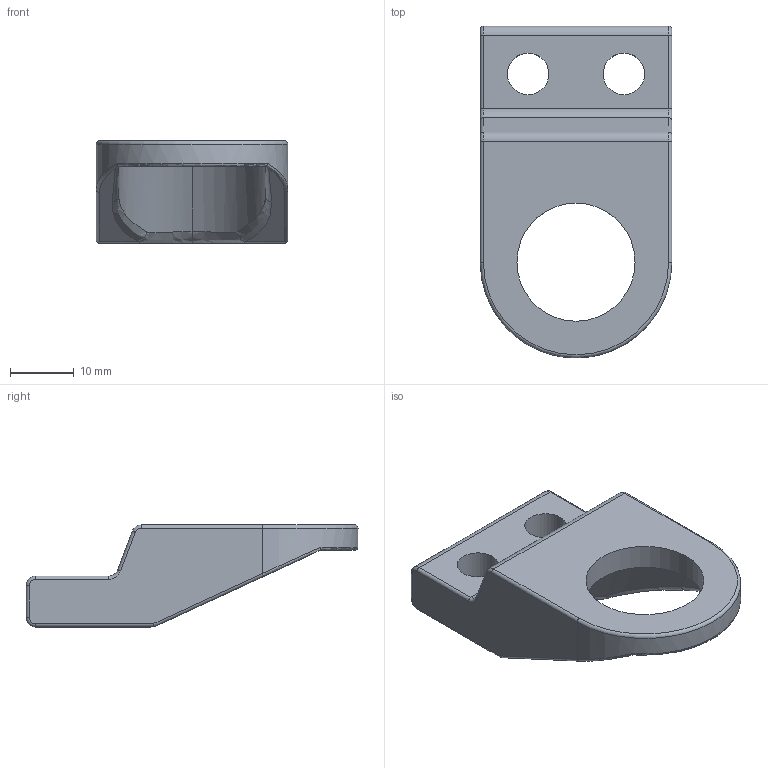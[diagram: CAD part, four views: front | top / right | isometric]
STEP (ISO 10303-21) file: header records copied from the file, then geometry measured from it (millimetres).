
FILE_DESCRIPTION (( 'STEP AP214' ), '1' );
FILE_NAME ('L19168.step', '2024-12-03T16:23:10', ( '' ), ( '' ), 'SwSTEP 2.0', 'SolidWorks 2023', '' );
FILE_SCHEMA (( 'AUTOMOTIVE_DESIGN' ));
Length unit declared in the file: millimetre
Products named in the file (1): L19168
Bounding box: 30 x 52 x 16 mm (x, y, z)
Volume: 9567.9 mm3; surface area: 4493 mm2
Topology: 1 solids, 1 shells, 54 faces, 133 edges, 81 vertices
Faces by surface type: cylinder 24, plane 12, torus 10, bspline 8
Full cylindrical faces by diameter (mm): 6.5 x2, 18.5 x1
Entity records: 2087 total; most frequent: CARTESIAN_POINT 879, ORIENTED_EDGE 260, DIRECTION 229, EDGE_CURVE 130, AXIS2_PLACEMENT_3D 93, VERTEX_POINT 81, EDGE_LOOP 63, FACE_OUTER_BOUND 57
